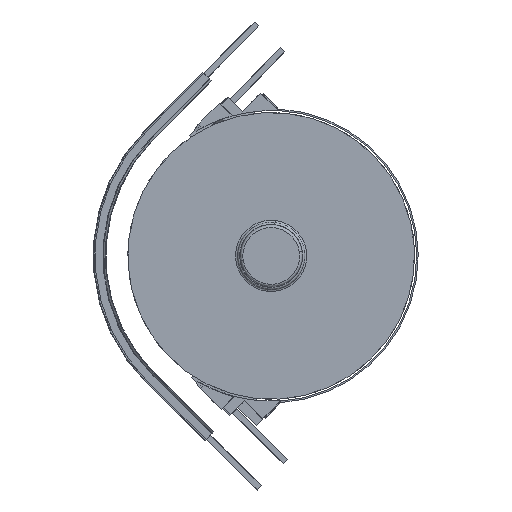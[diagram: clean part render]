
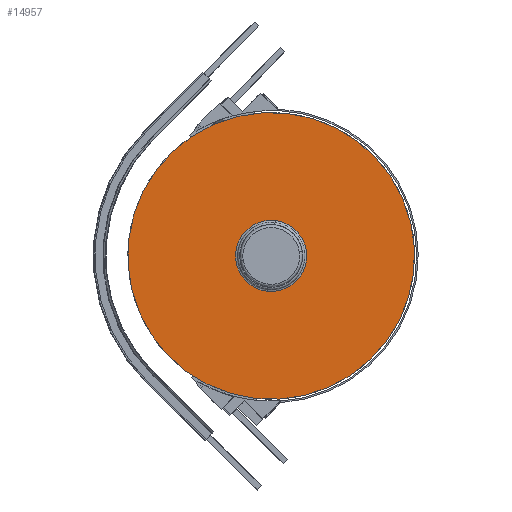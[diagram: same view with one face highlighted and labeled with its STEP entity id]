
A CAD part, left-side view. The second image highlights one B-rep face of the part: STEP entity #14957.
In plain terms, the highlighted planar face has unit normal (-1, 0, 0) as drawn and (0, 0, 1) by its records, which use the part's own axes.
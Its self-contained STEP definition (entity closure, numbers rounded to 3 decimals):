
#1942 = ORIENTED_EDGE ( 'NONE', *, *, #17256, .T. ) ;
#1943 = ORIENTED_EDGE ( 'NONE', *, *, #14874, .T. ) ;
#1944 = ORIENTED_EDGE ( 'NONE', *, *, #14901, .F. ) ;
#1945 = ORIENTED_EDGE ( 'NONE', *, *, #17257, .F. ) ;
#3794 = VERTEX_POINT ( 'NONE', #4638 ) ;
#3795 = VERTEX_POINT ( 'NONE', #4639 ) ;
#3798 = VERTEX_POINT ( 'NONE', #4643 ) ;
#3823 = VERTEX_POINT ( 'NONE', #4668 ) ;
#4638 = CARTESIAN_POINT ( 'NONE',  ( 930.3, 0., 21.9 ) ) ;
#4639 = CARTESIAN_POINT ( 'NONE',  ( 756.8, 0., 21.9 ) ) ;
#4643 = CARTESIAN_POINT ( 'NONE',  ( 861.3, 0., 21.9 ) ) ;
#4668 = CARTESIAN_POINT ( 'NONE',  ( 1034.8, 0., 21.9 ) ) ;
#4962 = EDGE_LOOP ( 'NONE', ( #1942, #1943 ) ) ;
#4994 = EDGE_LOOP ( 'NONE', ( #1944, #1945 ) ) ;
#14874 = EDGE_CURVE ( 'NONE', #3794, #3798, #25642, .T. ) ;
#14901 = EDGE_CURVE ( 'NONE', #3795, #3823, #25689, .T. ) ;
#14957 = ADVANCED_FACE ( 'NONE', ( #27145, #27151 ), #27152, .F. ) ;
#17256 = EDGE_CURVE ( 'NONE', #3798, #3794, #30637, .T. ) ;
#17257 = EDGE_CURVE ( 'NONE', #3823, #3795, #30639, .T. ) ;
#25642 = CIRCLE ( 'NONE', #25649, 34.5 ) ;
#25649 = AXIS2_PLACEMENT_3D ( 'NONE', #26793, #26794, #26795 ) ;
#25689 = CIRCLE ( 'NONE', #25691, 139. ) ;
#25691 = AXIS2_PLACEMENT_3D ( 'NONE', #26888, #26889, #26890 ) ;
#26793 = CARTESIAN_POINT ( 'NONE',  ( 895.8, 0., 21.9 ) ) ;
#26794 = DIRECTION ( 'NONE',  ( 0., 0., -1. ) ) ;
#26795 = DIRECTION ( 'NONE',  ( -1., 0., 0. ) ) ;
#26888 = CARTESIAN_POINT ( 'NONE',  ( 895.8, 0., 21.9 ) ) ;
#26889 = DIRECTION ( 'NONE',  ( 0., 0., -1. ) ) ;
#26890 = DIRECTION ( 'NONE',  ( -1., 0., 0. ) ) ;
#27145 = FACE_BOUND ( 'NONE', #4962, .T. ) ;
#27147 = DIRECTION ( 'NONE',  ( 0., 0., -1. ) ) ;
#27149 = CARTESIAN_POINT ( 'NONE',  ( 895.8, 0., 21.9 ) ) ;
#27151 = FACE_OUTER_BOUND ( 'NONE', #4994, .T. ) ;
#27152 = PLANE ( 'NONE',  #27893 ) ;
#27154 = DIRECTION ( 'NONE',  ( -1., 0., 0. ) ) ;
#27893 = AXIS2_PLACEMENT_3D ( 'NONE', #27149, #27147, #27154 ) ;
#30110 = CARTESIAN_POINT ( 'NONE',  ( 895.8, 0., 21.9 ) ) ;
#30111 = DIRECTION ( 'NONE',  ( 0., 0., -1. ) ) ;
#30112 = DIRECTION ( 'NONE',  ( -1., 0., 0. ) ) ;
#30113 = CARTESIAN_POINT ( 'NONE',  ( 895.8, 0., 21.9 ) ) ;
#30114 = DIRECTION ( 'NONE',  ( 0., 0., -1. ) ) ;
#30115 = DIRECTION ( 'NONE',  ( -1., 0., 0. ) ) ;
#30637 = CIRCLE ( 'NONE', #30640, 34.5 ) ;
#30639 = CIRCLE ( 'NONE', #30642, 139. ) ;
#30640 = AXIS2_PLACEMENT_3D ( 'NONE', #30110, #30111, #30112 ) ;
#30642 = AXIS2_PLACEMENT_3D ( 'NONE', #30113, #30114, #30115 ) ;
